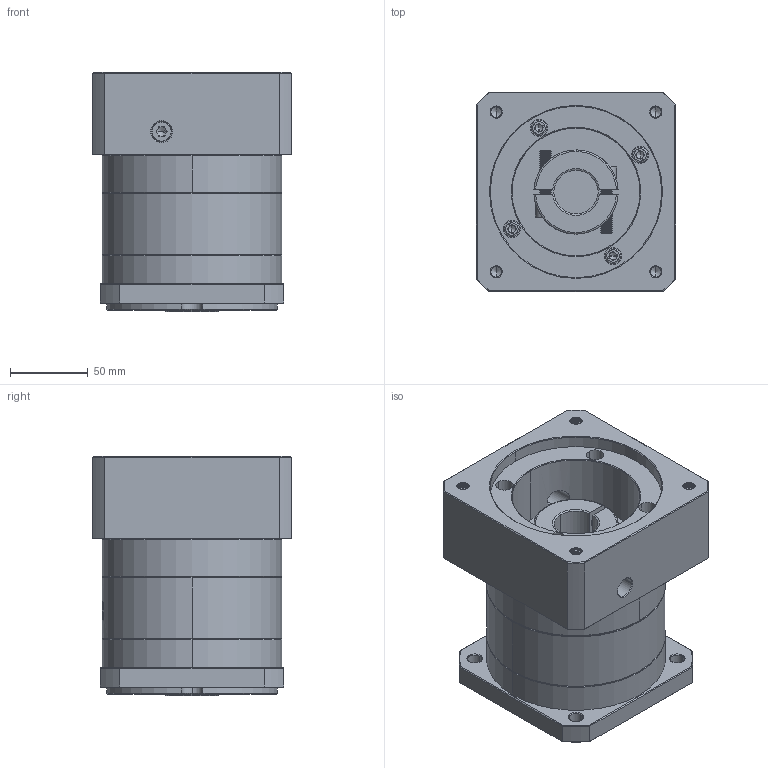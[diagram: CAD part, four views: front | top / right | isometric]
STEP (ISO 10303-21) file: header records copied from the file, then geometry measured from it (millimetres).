
FILE_DESCRIPTION (( 'STEP AP214' ), '1' );
FILE_NAME ('ZF120A-K25-L1-P2-28-110-145-M8.step', '2023-08-27T04:50:30', ( '' ), ( '' ), 'SwSTEP 2.0', 'SolidWorks 2016', '' );
FILE_SCHEMA (( 'AUTOMOTIVE_DESIGN' ));
Length unit declared in the file: millimetre
Products named in the file (1): ZF120A-K25-L1-P2-28-110-145-M8
Bounding box: 128 x 128 x 153.5 mm (x, y, z)
Volume: 1609977.6 mm3; surface area: 178949.9 mm2
Topology: 6 solids, 6 shells, 2158 faces, 5722 edges, 3668 vertices
Faces by surface type: plane 1026, bspline 410, cylinder 387, cone 315, torus 20
Entity records: 116822 total; most frequent: CARTESIAN_POINT 44724, ORIENTED_EDGE 11388, DIRECTION 8257, EDGE_CURVE 5694, VERTEX_POINT 3668, VECTOR 3035, LINE 3035, AXIS2_PLACEMENT_3D 2611
